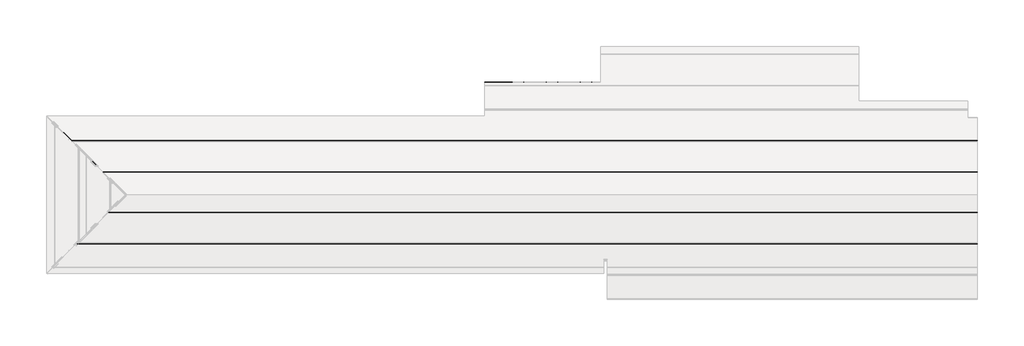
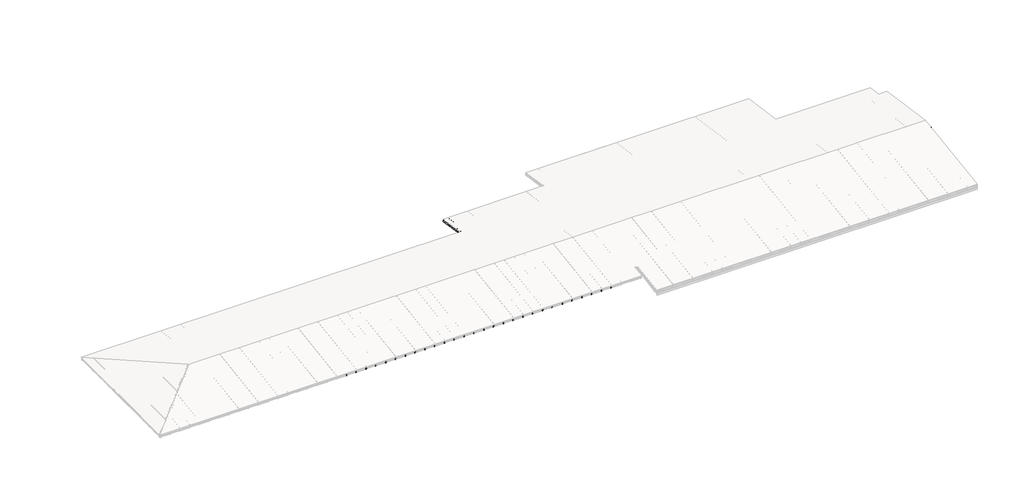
# One storey, part 3 of 5: 59 members, 46 plates.
"""IFC4 building model written with IfcOpenShell, lengths in millimetres."""

from ifc_helpers import new_model, si_unit, origin, place, context, project, spatial, transform, mapped, element, save
from components import rectangular_mullion_08a9c001, rectangular_mullion_d5565008, rectangular_mullion_caibro_4x6_cm_b9eb0bee, rectangular_mullion_caibro_4x6_cm_cc310553, rectangular_mullion_caibro_4x6_cm_ef3f1c05, empty_system_panel_empty_7d408543, empty_system_panel_empty_694f84fb, empty_system_panel_empty_d8998641, empty_system_panel_empty_9b456ec6, empty_system_panel_empty_9f7abfcc, empty_system_panel_empty_cdb567ee, empty_system_panel_empty_49417612, empty_system_panel_empty_f90244ea, empty_system_panel_empty_b74756e7, empty_system_panel_empty_c92cdc9c, empty_system_panel_empty_1d56c370, empty_system_panel_empty_437aea57, empty_system_panel_empty_44f66cc0, empty_system_panel_empty_91b1715d, empty_system_panel_empty_2183487f, empty_system_panel_empty_44032bfa, empty_system_panel_empty_7b34dfa2, empty_system_panel_empty_8c178459, empty_system_panel_empty_1d8738a6, empty_system_panel_empty_8f62b3ce, empty_system_panel_empty_225ca045, empty_system_panel_empty_36dc6f32, empty_system_panel_empty_60bd64a1

model = new_model("IFC4")

# Units and contexts
model_context = context("Model", 3, world=origin())
ifc_project = project(units=[si_unit("LENGTHUNIT", "METRE", prefix="MILLI")], contexts=[model_context])

# Site, building, storey
site = spatial("IfcSite", under=ifc_project)
building = spatial("IfcBuilding", under=site)
storey = spatial("IfcBuildingStorey", under=building, Name="NÍVEL 1", Elevation=3400.0)

# Members
placement = place(None, origin())
rectangular_mullion_shape = rectangular_mullion_08a9c001(model_context)
element("IfcMember", 1, ObjectType="Rectangular Mullion : TERÇA 6x12 cm", at=placement, inside=storey, context=model_context, shape_type="MappedRepresentation", body=[
    mapped(rectangular_mullion_shape, transform((-3392.3834094, -892.0637549, 3089.5787548), x_axis=(0.0, 0.9889363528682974, -0.1483404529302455), y_axis=(0.0, -0.1483404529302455, -0.9889363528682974), z_axis=(-1.0, 0.0, 0.0))),
])
rectangular_mullion_2_shape = rectangular_mullion_d5565008(model_context)
element("IfcMember", 2, ObjectType="Rectangular Mullion : RIPA 4x2 cm", at=placement, inside=storey, context=model_context, shape_type="MappedRepresentation", body=[
    mapped(rectangular_mullion_2_shape, transform((-3992.3834094, -292.0637549, 3063.25), x_axis=(0.0, 0.9889363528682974, -0.1483404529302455), y_axis=(0.0, -0.1483404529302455, -0.9889363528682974), z_axis=(-1.0, 0.0, 0.0))),
])
rectangular_mullion_caibro_4x6_cm_shape = rectangular_mullion_caibro_4x6_cm_b9eb0bee(model_context)
element("IfcMember", 3, ObjectType="Rectangular Mullion : CAIBRO 4x6 cm", at=placement, inside=storey, context=model_context, shape_type="MappedRepresentation", body=[
    mapped(rectangular_mullion_caibro_4x6_cm_shape, transform((-3992.3834094, -1801.8978002, 3289.7251068), x_axis=(-1.0, 0.0, 0.0), y_axis=(0.0, -0.14834045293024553, -0.9889363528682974), z_axis=(0.0, -0.9889363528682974, 0.14834045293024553))),
])
rectangular_mullion_caibro_4x6_cm_2_shape = rectangular_mullion_caibro_4x6_cm_cc310553(model_context)
element("IfcMember", 4, ObjectType="Rectangular Mullion : CAIBRO 4x6 cm", at=placement, inside=storey, context=model_context, shape_type="MappedRepresentation", body=[
    mapped(rectangular_mullion_caibro_4x6_cm_2_shape, transform((-13772.5718868, -5252.0637549, 3807.25), x_axis=(1.0, 0.0, 0.0), y_axis=(0.0, 0.1483404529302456, -0.9889363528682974), z_axis=(0.0, 0.9889363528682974, 0.1483404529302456))),
])
element("IfcMember", 5, ObjectType="Rectangular Mullion : CAIBRO 4x6 cm", at=placement, inside=storey, context=model_context, shape_type="MappedRepresentation", body=[
    mapped(rectangular_mullion_caibro_4x6_cm_2_shape, transform((-13273.3625458, -5252.0637549, 3807.25), x_axis=(1.0, 0.0, 0.0), y_axis=(0.0, 0.1483404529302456, -0.9889363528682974), z_axis=(0.0, 0.9889363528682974, 0.1483404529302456))),
])
element("IfcMember", 6, ObjectType="Rectangular Mullion : CAIBRO 4x6 cm", at=placement, inside=storey, context=model_context, shape_type="MappedRepresentation", body=[
    mapped(rectangular_mullion_caibro_4x6_cm_2_shape, transform((-12774.1532049, -5252.0637549, 3807.25), x_axis=(1.0, 0.0, 0.0), y_axis=(0.0, 0.1483404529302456, -0.9889363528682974), z_axis=(0.0, 0.9889363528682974, 0.1483404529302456))),
])
element("IfcMember", 7, ObjectType="Rectangular Mullion : CAIBRO 4x6 cm", at=placement, inside=storey, context=model_context, shape_type="MappedRepresentation", body=[
    mapped(rectangular_mullion_caibro_4x6_cm_2_shape, transform((-12274.943864, -5252.0637549, 3807.25), x_axis=(1.0, 0.0, 0.0), y_axis=(0.0, 0.14834045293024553, -0.9889363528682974), z_axis=(0.0, 0.9889363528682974, 0.14834045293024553))),
])
element("IfcMember", 8, ObjectType="Rectangular Mullion : CAIBRO 4x6 cm", at=placement, inside=storey, context=model_context, shape_type="MappedRepresentation", body=[
    mapped(rectangular_mullion_caibro_4x6_cm_2_shape, transform((-11775.7345231, -5252.0637549, 3807.25), x_axis=(1.0, 0.0, 0.0), y_axis=(0.0, 0.1483404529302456, -0.9889363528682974), z_axis=(0.0, 0.9889363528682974, 0.1483404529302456))),
])
element("IfcMember", 9, ObjectType="Rectangular Mullion : CAIBRO 4x6 cm", at=placement, inside=storey, context=model_context, shape_type="MappedRepresentation", body=[
    mapped(rectangular_mullion_caibro_4x6_cm_2_shape, transform((-11276.5251822, -5252.0637549, 3807.25), x_axis=(1.0, 0.0, 0.0), y_axis=(0.0, 0.1483404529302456, -0.9889363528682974), z_axis=(0.0, 0.9889363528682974, 0.1483404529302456))),
])
element("IfcMember", 10, ObjectType="Rectangular Mullion : CAIBRO 4x6 cm", at=placement, inside=storey, context=model_context, shape_type="MappedRepresentation", body=[
    mapped(rectangular_mullion_caibro_4x6_cm_2_shape, transform((-10777.3158413, -5252.0637549, 3807.25), x_axis=(1.0, 0.0, 0.0), y_axis=(0.0, 0.1483404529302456, -0.9889363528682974), z_axis=(0.0, 0.9889363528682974, 0.1483404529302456))),
])
element("IfcMember", 11, ObjectType="Rectangular Mullion : CAIBRO 4x6 cm", at=placement, inside=storey, context=model_context, shape_type="MappedRepresentation", body=[
    mapped(rectangular_mullion_caibro_4x6_cm_2_shape, transform((-10278.1065004, -5252.0637549, 3807.25), x_axis=(1.0, 0.0, 0.0), y_axis=(0.0, 0.1483404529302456, -0.9889363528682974), z_axis=(0.0, 0.9889363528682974, 0.1483404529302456))),
])
element("IfcMember", 12, ObjectType="Rectangular Mullion : CAIBRO 4x6 cm", at=placement, inside=storey, context=model_context, shape_type="MappedRepresentation", body=[
    mapped(rectangular_mullion_caibro_4x6_cm_2_shape, transform((-9778.8971595, -5252.0637549, 3807.25), x_axis=(1.0, 0.0, 0.0), y_axis=(0.0, 0.14834045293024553, -0.9889363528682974), z_axis=(0.0, 0.9889363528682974, 0.14834045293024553))),
])
element("IfcMember", 13, ObjectType="Rectangular Mullion : CAIBRO 4x6 cm", at=placement, inside=storey, context=model_context, shape_type="MappedRepresentation", body=[
    mapped(rectangular_mullion_caibro_4x6_cm_2_shape, transform((-9279.6878186, -5252.0637549, 3807.25), x_axis=(1.0, 0.0, 0.0), y_axis=(0.0, 0.14834045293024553, -0.9889363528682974), z_axis=(0.0, 0.9889363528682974, 0.14834045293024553))),
])
element("IfcMember", 14, ObjectType="Rectangular Mullion : CAIBRO 4x6 cm", at=placement, inside=storey, context=model_context, shape_type="MappedRepresentation", body=[
    mapped(rectangular_mullion_caibro_4x6_cm_2_shape, transform((-8780.4784776, -5252.0637549, 3807.25), x_axis=(1.0, 0.0, 0.0), y_axis=(0.0, 0.14834045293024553, -0.9889363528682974), z_axis=(0.0, 0.9889363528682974, 0.14834045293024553))),
])
element("IfcMember", 15, ObjectType="Rectangular Mullion : CAIBRO 4x6 cm", at=placement, inside=storey, context=model_context, shape_type="MappedRepresentation", body=[
    mapped(rectangular_mullion_caibro_4x6_cm_2_shape, transform((-8281.2691367, -5252.0637549, 3807.25), x_axis=(1.0, 0.0, 0.0), y_axis=(0.0, 0.14834045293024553, -0.9889363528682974), z_axis=(0.0, 0.9889363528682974, 0.14834045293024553))),
])
element("IfcMember", 16, ObjectType="Rectangular Mullion : CAIBRO 4x6 cm", at=placement, inside=storey, context=model_context, shape_type="MappedRepresentation", body=[
    mapped(rectangular_mullion_caibro_4x6_cm_2_shape, transform((-7782.0597958, -5252.0637549, 3807.25), x_axis=(1.0, 0.0, 0.0), y_axis=(0.0, 0.1483404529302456, -0.9889363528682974), z_axis=(0.0, 0.9889363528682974, 0.1483404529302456))),
])
element("IfcMember", 17, ObjectType="Rectangular Mullion : CAIBRO 4x6 cm", at=placement, inside=storey, context=model_context, shape_type="MappedRepresentation", body=[
    mapped(rectangular_mullion_caibro_4x6_cm_2_shape, transform((-7282.8504549, -5252.0637549, 3807.25), x_axis=(1.0, 0.0, 0.0), y_axis=(0.0, 0.14834045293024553, -0.9889363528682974), z_axis=(0.0, 0.9889363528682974, 0.14834045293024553))),
])
element("IfcMember", 18, ObjectType="Rectangular Mullion : CAIBRO 4x6 cm", at=placement, inside=storey, context=model_context, shape_type="MappedRepresentation", body=[
    mapped(rectangular_mullion_caibro_4x6_cm_2_shape, transform((-6783.641114, -5252.0637549, 3807.25), x_axis=(1.0, 0.0, 0.0), y_axis=(0.0, 0.14834045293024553, -0.9889363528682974), z_axis=(0.0, 0.9889363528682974, 0.14834045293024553))),
])
element("IfcMember", 19, ObjectType="Rectangular Mullion : CAIBRO 4x6 cm", at=placement, inside=storey, context=model_context, shape_type="MappedRepresentation", body=[
    mapped(rectangular_mullion_caibro_4x6_cm_2_shape, transform((-6284.4317731, -5252.0637549, 3807.25), x_axis=(1.0, 0.0, 0.0), y_axis=(0.0, 0.14834045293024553, -0.9889363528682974), z_axis=(0.0, 0.9889363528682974, 0.14834045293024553))),
])
element("IfcMember", 20, ObjectType="Rectangular Mullion : CAIBRO 4x6 cm", at=placement, inside=storey, context=model_context, shape_type="MappedRepresentation", body=[
    mapped(rectangular_mullion_caibro_4x6_cm_2_shape, transform((-5785.2224322, -5252.0637549, 3807.25), x_axis=(1.0, 0.0, 0.0), y_axis=(0.0, 0.14834045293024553, -0.9889363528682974), z_axis=(0.0, 0.9889363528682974, 0.14834045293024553))),
])
element("IfcMember", 21, ObjectType="Rectangular Mullion : CAIBRO 4x6 cm", at=placement, inside=storey, context=model_context, shape_type="MappedRepresentation", body=[
    mapped(rectangular_mullion_caibro_4x6_cm_2_shape, transform((-5286.0130913, -5252.0637549, 3807.25), x_axis=(1.0, 0.0, 0.0), y_axis=(0.0, 0.14834045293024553, -0.9889363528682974), z_axis=(0.0, 0.9889363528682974, 0.14834045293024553))),
])
element("IfcMember", 22, ObjectType="Rectangular Mullion : CAIBRO 4x6 cm", at=placement, inside=storey, context=model_context, shape_type="MappedRepresentation", body=[
    mapped(rectangular_mullion_caibro_4x6_cm_2_shape, transform((-4786.8037504, -5252.0637549, 3807.25), x_axis=(1.0, 0.0, 0.0), y_axis=(0.0, 0.14834045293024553, -0.9889363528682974), z_axis=(0.0, 0.9889363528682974, 0.14834045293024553))),
])
element("IfcMember", 23, ObjectType="Rectangular Mullion : CAIBRO 4x6 cm", at=placement, inside=storey, context=model_context, shape_type="MappedRepresentation", body=[
    mapped(rectangular_mullion_caibro_4x6_cm_2_shape, transform((-4287.5944094, -5252.0637549, 3807.25), x_axis=(1.0, 0.0, 0.0), y_axis=(0.0, 0.14834045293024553, -0.9889363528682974), z_axis=(0.0, 0.9889363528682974, 0.14834045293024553))),
])
element("IfcMember", 24, ObjectType="Rectangular Mullion : CAIBRO 4x6 cm", at=placement, inside=storey, context=model_context, shape_type="MappedRepresentation", body=[
    mapped(rectangular_mullion_caibro_4x6_cm_2_shape, transform((-4287.5944094, -5252.0637549, 3807.25), x_axis=(-1.0, 0.0, 0.0), y_axis=(0.0, -0.14834045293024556, -0.9889363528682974), z_axis=(0.0, -0.9889363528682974, 0.14834045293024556))),
])
element("IfcMember", 25, ObjectType="Rectangular Mullion : CAIBRO 4x6 cm", at=placement, inside=storey, context=model_context, shape_type="MappedRepresentation", body=[
    mapped(rectangular_mullion_caibro_4x6_cm_2_shape, transform((-4786.8037504, -5252.0637549, 3807.25), x_axis=(-1.0, 0.0, 0.0), y_axis=(0.0, -0.14834045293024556, -0.9889363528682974), z_axis=(0.0, -0.9889363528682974, 0.14834045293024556))),
])
element("IfcMember", 26, ObjectType="Rectangular Mullion : CAIBRO 4x6 cm", at=placement, inside=storey, context=model_context, shape_type="MappedRepresentation", body=[
    mapped(rectangular_mullion_caibro_4x6_cm_2_shape, transform((-5286.0130913, -5252.0637549, 3807.25), x_axis=(-1.0, 0.0, 0.0), y_axis=(0.0, -0.14834045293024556, -0.9889363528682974), z_axis=(0.0, -0.9889363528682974, 0.14834045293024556))),
])
element("IfcMember", 27, ObjectType="Rectangular Mullion : CAIBRO 4x6 cm", at=placement, inside=storey, context=model_context, shape_type="MappedRepresentation", body=[
    mapped(rectangular_mullion_caibro_4x6_cm_2_shape, transform((-5785.2224322, -5252.0637549, 3807.25), x_axis=(-1.0, 0.0, 0.0), y_axis=(0.0, -0.14834045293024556, -0.9889363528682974), z_axis=(0.0, -0.9889363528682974, 0.14834045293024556))),
])
element("IfcMember", 28, ObjectType="Rectangular Mullion : CAIBRO 4x6 cm", at=placement, inside=storey, context=model_context, shape_type="MappedRepresentation", body=[
    mapped(rectangular_mullion_caibro_4x6_cm_2_shape, transform((-6284.4317731, -5252.0637549, 3807.25), x_axis=(-1.0, 0.0, 0.0), y_axis=(0.0, -0.14834045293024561, -0.9889363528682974), z_axis=(0.0, -0.9889363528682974, 0.14834045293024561))),
])
element("IfcMember", 29, ObjectType="Rectangular Mullion : CAIBRO 4x6 cm", at=placement, inside=storey, context=model_context, shape_type="MappedRepresentation", body=[
    mapped(rectangular_mullion_caibro_4x6_cm_2_shape, transform((-6783.641114, -5252.0637549, 3807.25), x_axis=(-1.0, 0.0, 0.0), y_axis=(0.0, -0.14834045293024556, -0.9889363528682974), z_axis=(0.0, -0.9889363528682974, 0.14834045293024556))),
])
element("IfcMember", 30, ObjectType="Rectangular Mullion : CAIBRO 4x6 cm", at=placement, inside=storey, context=model_context, shape_type="MappedRepresentation", body=[
    mapped(rectangular_mullion_caibro_4x6_cm_2_shape, transform((-7282.8504549, -5252.0637549, 3807.25), x_axis=(-1.0, 0.0, 0.0), y_axis=(0.0, -0.14834045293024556, -0.9889363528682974), z_axis=(0.0, -0.9889363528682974, 0.14834045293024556))),
])
element("IfcMember", 31, ObjectType="Rectangular Mullion : CAIBRO 4x6 cm", at=placement, inside=storey, context=model_context, shape_type="MappedRepresentation", body=[
    mapped(rectangular_mullion_caibro_4x6_cm_2_shape, transform((-7782.0597958, -5252.0637549, 3807.25), x_axis=(-1.0, 0.0, 0.0), y_axis=(0.0, -0.14834045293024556, -0.9889363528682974), z_axis=(0.0, -0.9889363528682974, 0.14834045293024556))),
])
element("IfcMember", 32, ObjectType="Rectangular Mullion : CAIBRO 4x6 cm", at=placement, inside=storey, context=model_context, shape_type="MappedRepresentation", body=[
    mapped(rectangular_mullion_caibro_4x6_cm_2_shape, transform((-8281.2691367, -5252.0637549, 3807.25), x_axis=(-1.0, 0.0, 0.0), y_axis=(0.0, -0.14834045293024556, -0.9889363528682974), z_axis=(0.0, -0.9889363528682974, 0.14834045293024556))),
])
element("IfcMember", 33, ObjectType="Rectangular Mullion : CAIBRO 4x6 cm", at=placement, inside=storey, context=model_context, shape_type="MappedRepresentation", body=[
    mapped(rectangular_mullion_caibro_4x6_cm_2_shape, transform((-8780.4784776, -5252.0637549, 3807.25), x_axis=(-1.0, 0.0, 0.0), y_axis=(0.0, -0.14834045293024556, -0.9889363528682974), z_axis=(0.0, -0.9889363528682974, 0.14834045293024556))),
])
element("IfcMember", 34, ObjectType="Rectangular Mullion : CAIBRO 4x6 cm", at=placement, inside=storey, context=model_context, shape_type="MappedRepresentation", body=[
    mapped(rectangular_mullion_caibro_4x6_cm_2_shape, transform((-9279.6878186, -5252.0637549, 3807.25), x_axis=(-1.0, 0.0, 0.0), y_axis=(0.0, -0.14834045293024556, -0.9889363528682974), z_axis=(0.0, -0.9889363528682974, 0.14834045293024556))),
])
element("IfcMember", 35, ObjectType="Rectangular Mullion : CAIBRO 4x6 cm", at=placement, inside=storey, context=model_context, shape_type="MappedRepresentation", body=[
    mapped(rectangular_mullion_caibro_4x6_cm_2_shape, transform((-9778.8971595, -5252.0637549, 3807.25), x_axis=(-1.0, 0.0, 0.0), y_axis=(0.0, -0.14834045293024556, -0.9889363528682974), z_axis=(0.0, -0.9889363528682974, 0.14834045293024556))),
])
element("IfcMember", 36, ObjectType="Rectangular Mullion : CAIBRO 4x6 cm", at=placement, inside=storey, context=model_context, shape_type="MappedRepresentation", body=[
    mapped(rectangular_mullion_caibro_4x6_cm_2_shape, transform((-10278.1065004, -5252.0637549, 3807.25), x_axis=(-1.0, 0.0, 0.0), y_axis=(0.0, -0.14834045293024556, -0.9889363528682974), z_axis=(0.0, -0.9889363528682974, 0.14834045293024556))),
])
element("IfcMember", 37, ObjectType="Rectangular Mullion : CAIBRO 4x6 cm", at=placement, inside=storey, context=model_context, shape_type="MappedRepresentation", body=[
    mapped(rectangular_mullion_caibro_4x6_cm_2_shape, transform((-10777.3158413, -5252.0637549, 3807.25), x_axis=(-1.0, 0.0, 0.0), y_axis=(0.0, -0.14834045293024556, -0.9889363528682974), z_axis=(0.0, -0.9889363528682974, 0.14834045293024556))),
])
element("IfcMember", 38, ObjectType="Rectangular Mullion : CAIBRO 4x6 cm", at=placement, inside=storey, context=model_context, shape_type="MappedRepresentation", body=[
    mapped(rectangular_mullion_caibro_4x6_cm_2_shape, transform((-11276.5251822, -5252.0637549, 3807.25), x_axis=(-1.0, 0.0, 0.0), y_axis=(0.0, -0.14834045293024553, -0.9889363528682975), z_axis=(0.0, -0.9889363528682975, 0.14834045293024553))),
])
element("IfcMember", 39, ObjectType="Rectangular Mullion : CAIBRO 4x6 cm", at=placement, inside=storey, context=model_context, shape_type="MappedRepresentation", body=[
    mapped(rectangular_mullion_caibro_4x6_cm_2_shape, transform((-11775.7345231, -5252.0637549, 3807.25), x_axis=(-1.0, 0.0, 0.0), y_axis=(0.0, -0.14834045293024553, -0.9889363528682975), z_axis=(0.0, -0.9889363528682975, 0.14834045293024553))),
])
element("IfcMember", 40, ObjectType="Rectangular Mullion : CAIBRO 4x6 cm", at=placement, inside=storey, context=model_context, shape_type="MappedRepresentation", body=[
    mapped(rectangular_mullion_caibro_4x6_cm_2_shape, transform((-12274.943864, -5252.0637549, 3807.25), x_axis=(-1.0, 0.0, 0.0), y_axis=(0.0, -0.14834045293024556, -0.9889363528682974), z_axis=(0.0, -0.9889363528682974, 0.14834045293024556))),
])
element("IfcMember", 41, ObjectType="Rectangular Mullion : CAIBRO 4x6 cm", at=placement, inside=storey, context=model_context, shape_type="MappedRepresentation", body=[
    mapped(rectangular_mullion_caibro_4x6_cm_2_shape, transform((-12774.1532049, -5252.0637549, 3807.25), x_axis=(-1.0, 0.0, 0.0), y_axis=(0.0, -0.14834045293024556, -0.9889363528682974), z_axis=(0.0, -0.9889363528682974, 0.14834045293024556))),
])
element("IfcMember", 42, ObjectType="Rectangular Mullion : CAIBRO 4x6 cm", at=placement, inside=storey, context=model_context, shape_type="MappedRepresentation", body=[
    mapped(rectangular_mullion_caibro_4x6_cm_2_shape, transform((-13273.3625458, -5252.0637549, 3807.25), x_axis=(-1.0, 0.0, 0.0), y_axis=(0.0, -0.14834045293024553, -0.9889363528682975), z_axis=(0.0, -0.9889363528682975, 0.14834045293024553))),
])
element("IfcMember", 43, ObjectType="Rectangular Mullion : CAIBRO 4x6 cm", at=placement, inside=storey, context=model_context, shape_type="MappedRepresentation", body=[
    mapped(rectangular_mullion_caibro_4x6_cm_2_shape, transform((-13772.5718868, -5252.0637549, 3807.25), x_axis=(-1.0, 0.0, 0.0), y_axis=(0.0, -0.14834045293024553, -0.9889363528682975), z_axis=(0.0, -0.9889363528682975, 0.14834045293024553))),
])
element("IfcMember", 44, ObjectType="Rectangular Mullion : CAIBRO 4x6 cm", at=placement, inside=storey, context=model_context, shape_type="MappedRepresentation", body=[
    mapped(rectangular_mullion_caibro_4x6_cm_2_shape, transform((-3788.3850685, -5252.0637549, 3807.25), x_axis=(1.0, 0.0, 0.0), y_axis=(0.0, 0.14834045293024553, -0.9889363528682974), z_axis=(0.0, 0.9889363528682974, 0.14834045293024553))),
])
element("IfcMember", 45, ObjectType="Rectangular Mullion : CAIBRO 4x6 cm", at=placement, inside=storey, context=model_context, shape_type="MappedRepresentation", body=[
    mapped(rectangular_mullion_caibro_4x6_cm_2_shape, transform((-3289.1757276, -5252.0637549, 3807.25), x_axis=(1.0, 0.0, 0.0), y_axis=(0.0, 0.14834045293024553, -0.9889363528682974), z_axis=(0.0, 0.9889363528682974, 0.14834045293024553))),
])
element("IfcMember", 46, ObjectType="Rectangular Mullion : CAIBRO 4x6 cm", at=placement, inside=storey, context=model_context, shape_type="MappedRepresentation", body=[
    mapped(rectangular_mullion_caibro_4x6_cm_2_shape, transform((-2789.9663867, -5252.0637549, 3807.25), x_axis=(1.0, 0.0, 0.0), y_axis=(0.0, 0.14834045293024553, -0.9889363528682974), z_axis=(0.0, 0.9889363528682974, 0.14834045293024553))),
])
element("IfcMember", 47, ObjectType="Rectangular Mullion : CAIBRO 4x6 cm", at=placement, inside=storey, context=model_context, shape_type="MappedRepresentation", body=[
    mapped(rectangular_mullion_caibro_4x6_cm_2_shape, transform((-2290.7570458, -5252.0637549, 3807.25), x_axis=(1.0, 0.0, 0.0), y_axis=(0.0, 0.1483404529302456, -0.9889363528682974), z_axis=(0.0, 0.9889363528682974, 0.1483404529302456))),
])
element("IfcMember", 48, ObjectType="Rectangular Mullion : CAIBRO 4x6 cm", at=placement, inside=storey, context=model_context, shape_type="MappedRepresentation", body=[
    mapped(rectangular_mullion_caibro_4x6_cm_2_shape, transform((-1791.5477049, -5252.0637549, 3807.25), x_axis=(1.0, 0.0, 0.0), y_axis=(0.0, 0.1483404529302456, -0.9889363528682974), z_axis=(0.0, 0.9889363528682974, 0.1483404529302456))),
])
element("IfcMember", 49, ObjectType="Rectangular Mullion : CAIBRO 4x6 cm", at=placement, inside=storey, context=model_context, shape_type="MappedRepresentation", body=[
    mapped(rectangular_mullion_caibro_4x6_cm_2_shape, transform((-1292.338364, -5252.0637549, 3807.25), x_axis=(1.0, 0.0, 0.0), y_axis=(0.0, 0.1483404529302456, -0.9889363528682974), z_axis=(0.0, 0.9889363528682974, 0.1483404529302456))),
])
element("IfcMember", 50, ObjectType="Rectangular Mullion : CAIBRO 4x6 cm", at=placement, inside=storey, context=model_context, shape_type="MappedRepresentation", body=[
    mapped(rectangular_mullion_caibro_4x6_cm_2_shape, transform((-793.1290231, -5252.0637549, 3807.25), x_axis=(1.0, 0.0, 0.0), y_axis=(0.0, 0.1483404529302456, -0.9889363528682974), z_axis=(0.0, 0.9889363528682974, 0.1483404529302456))),
])
element("IfcMember", 51, ObjectType="Rectangular Mullion : CAIBRO 4x6 cm", at=placement, inside=storey, context=model_context, shape_type="MappedRepresentation", body=[
    mapped(rectangular_mullion_caibro_4x6_cm_2_shape, transform((-293.9196822, -5252.0637549, 3807.25), x_axis=(1.0, 0.0, 0.0), y_axis=(0.0, 0.1483404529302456, -0.9889363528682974), z_axis=(0.0, 0.9889363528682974, 0.1483404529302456))),
])
rectangular_mullion_caibro_4x6_cm_3_shape = rectangular_mullion_caibro_4x6_cm_ef3f1c05(model_context)
element("IfcMember", 52, ObjectType="Rectangular Mullion : CAIBRO 4x6 cm", at=placement, inside=storey, context=model_context, shape_type="MappedRepresentation", body=[
    mapped(rectangular_mullion_caibro_4x6_cm_3_shape, transform((-293.9196822, -5252.0637549, 3807.25), x_axis=(-1.0, 0.0, 0.0), y_axis=(0.0, -0.1483404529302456, -0.9889363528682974), z_axis=(0.0, -0.9889363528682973, 0.14834045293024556))),
])
element("IfcMember", 53, ObjectType="Rectangular Mullion : CAIBRO 4x6 cm", at=placement, inside=storey, context=model_context, shape_type="MappedRepresentation", body=[
    mapped(rectangular_mullion_caibro_4x6_cm_3_shape, transform((-793.1290231, -5252.0637549, 3807.25), x_axis=(-1.0, 0.0, 0.0), y_axis=(0.0, -0.14834045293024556, -0.9889363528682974), z_axis=(0.0, -0.9889363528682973, 0.14834045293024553))),
])
element("IfcMember", 54, ObjectType="Rectangular Mullion : CAIBRO 4x6 cm", at=placement, inside=storey, context=model_context, shape_type="MappedRepresentation", body=[
    mapped(rectangular_mullion_caibro_4x6_cm_3_shape, transform((-1292.338364, -5252.0637549, 3807.25), x_axis=(-1.0, 0.0, 0.0), y_axis=(0.0, -0.1483404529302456, -0.9889363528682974), z_axis=(0.0, -0.9889363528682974, 0.1483404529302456))),
])
element("IfcMember", 55, ObjectType="Rectangular Mullion : CAIBRO 4x6 cm", at=placement, inside=storey, context=model_context, shape_type="MappedRepresentation", body=[
    mapped(rectangular_mullion_caibro_4x6_cm_3_shape, transform((-1791.5477049, -5252.0637549, 3807.25), x_axis=(-1.0, 0.0, 0.0), y_axis=(0.0, -0.14834045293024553, -0.9889363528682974), z_axis=(0.0, -0.9889363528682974, 0.14834045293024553))),
])
element("IfcMember", 56, ObjectType="Rectangular Mullion : CAIBRO 4x6 cm", at=placement, inside=storey, context=model_context, shape_type="MappedRepresentation", body=[
    mapped(rectangular_mullion_caibro_4x6_cm_3_shape, transform((-2290.7570458, -5252.0637549, 3807.25), x_axis=(-1.0, 0.0, 0.0), y_axis=(0.0, -0.1483404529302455, -0.9889363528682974), z_axis=(0.0, -0.9889363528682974, 0.1483404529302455))),
])
element("IfcMember", 57, ObjectType="Rectangular Mullion : CAIBRO 4x6 cm", at=placement, inside=storey, context=model_context, shape_type="MappedRepresentation", body=[
    mapped(rectangular_mullion_caibro_4x6_cm_3_shape, transform((-2789.9663867, -5252.0637549, 3807.25), x_axis=(-1.0, 0.0, 0.0), y_axis=(0.0, -0.14834045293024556, -0.9889363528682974), z_axis=(0.0, -0.9889363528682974, 0.14834045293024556))),
])
element("IfcMember", 58, ObjectType="Rectangular Mullion : CAIBRO 4x6 cm", at=placement, inside=storey, context=model_context, shape_type="MappedRepresentation", body=[
    mapped(rectangular_mullion_caibro_4x6_cm_3_shape, transform((-3289.1757276, -5252.0637549, 3807.25), x_axis=(-1.0, 0.0, 0.0), y_axis=(0.0, -0.14834045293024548, -0.9889363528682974), z_axis=(0.0, -0.9889363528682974, 0.14834045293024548))),
])
element("IfcMember", 59, ObjectType="Rectangular Mullion : CAIBRO 4x6 cm", at=placement, inside=storey, context=model_context, shape_type="MappedRepresentation", body=[
    mapped(rectangular_mullion_caibro_4x6_cm_3_shape, transform((-3788.3850685, -5252.0637549, 3807.25), x_axis=(-1.0, 0.0, 0.0), y_axis=(0.0, -0.14834045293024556, -0.9889363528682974), z_axis=(0.0, -0.9889363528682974, 0.14834045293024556))),
])

# Plates
empty_system_panel_empty_shape = empty_system_panel_empty_7d408543(model_context)
element("IfcPlate", 60, ObjectType="Empty System Panel : Empty", at=placement, inside=storey, context=model_context, shape_type="MappedRepresentation", body=[
    mapped(empty_system_panel_empty_shape, transform((-4537.1990799, -1801.8978002, 3289.7251068), x_axis=(-1.0, 0.0, 0.0), y_axis=(0.0, -0.1483404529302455, -0.9889363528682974), z_axis=(0.0, -0.9889363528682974, 0.1483404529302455))),
])
element("IfcPlate", 61, ObjectType="Empty System Panel : Empty", at=placement, inside=storey, context=model_context, shape_type="MappedRepresentation", body=[
    mapped(empty_system_panel_empty_shape, transform((-5036.4084208, -1801.8978002, 3289.7251068), x_axis=(-1.0, 0.0, 0.0), y_axis=(0.0, -0.1483404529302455, -0.9889363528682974), z_axis=(0.0, -0.9889363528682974, 0.1483404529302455))),
])
element("IfcPlate", 62, ObjectType="Empty System Panel : Empty", at=placement, inside=storey, context=model_context, shape_type="MappedRepresentation", body=[
    mapped(empty_system_panel_empty_shape, transform((-5535.6177617, -1801.8978002, 3289.7251068), x_axis=(-1.0, 0.0, 0.0), y_axis=(0.0, -0.1483404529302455, -0.9889363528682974), z_axis=(0.0, -0.9889363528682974, 0.1483404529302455))),
])
element("IfcPlate", 63, ObjectType="Empty System Panel : Empty", at=placement, inside=storey, context=model_context, shape_type="MappedRepresentation", body=[
    mapped(empty_system_panel_empty_shape, transform((-6034.8271026, -1801.8978002, 3289.7251068), x_axis=(-1.0, 0.0, 0.0), y_axis=(0.0, -0.1483404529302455, -0.9889363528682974), z_axis=(0.0, -0.9889363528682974, 0.1483404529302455))),
])
element("IfcPlate", 64, ObjectType="Empty System Panel : Empty", at=placement, inside=storey, context=model_context, shape_type="MappedRepresentation", body=[
    mapped(empty_system_panel_empty_shape, transform((-6534.0364435, -1801.8978002, 3289.7251068), x_axis=(-1.0, 0.0, 0.0), y_axis=(0.0, -0.1483404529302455, -0.9889363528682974), z_axis=(0.0, -0.9889363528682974, 0.1483404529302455))),
])
element("IfcPlate", 65, ObjectType="Empty System Panel : Empty", at=placement, inside=storey, context=model_context, shape_type="MappedRepresentation", body=[
    mapped(empty_system_panel_empty_shape, transform((-7033.2457845, -1801.8978002, 3289.7251068), x_axis=(-1.0, 0.0, 0.0), y_axis=(0.0, -0.1483404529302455, -0.9889363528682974), z_axis=(0.0, -0.9889363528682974, 0.1483404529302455))),
])
element("IfcPlate", 66, ObjectType="Empty System Panel : Empty", at=placement, inside=storey, context=model_context, shape_type="MappedRepresentation", body=[
    mapped(empty_system_panel_empty_shape, transform((-7532.4551254, -1801.8978002, 3289.7251068), x_axis=(-1.0, 0.0, 0.0), y_axis=(0.0, -0.1483404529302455, -0.9889363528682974), z_axis=(0.0, -0.9889363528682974, 0.1483404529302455))),
])
element("IfcPlate", 67, ObjectType="Empty System Panel : Empty", at=placement, inside=storey, context=model_context, shape_type="MappedRepresentation", body=[
    mapped(empty_system_panel_empty_shape, transform((-8031.6644663, -1801.8978002, 3289.7251068), x_axis=(-1.0, 0.0, 0.0), y_axis=(0.0, -0.1483404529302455, -0.9889363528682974), z_axis=(0.0, -0.9889363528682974, 0.1483404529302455))),
])
element("IfcPlate", 68, ObjectType="Empty System Panel : Empty", at=placement, inside=storey, context=model_context, shape_type="MappedRepresentation", body=[
    mapped(empty_system_panel_empty_shape, transform((-8530.8738072, -1801.8978002, 3289.7251068), x_axis=(-1.0, 0.0, 0.0), y_axis=(0.0, -0.1483404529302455, -0.9889363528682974), z_axis=(0.0, -0.9889363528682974, 0.1483404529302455))),
])
element("IfcPlate", 69, ObjectType="Empty System Panel : Empty", at=placement, inside=storey, context=model_context, shape_type="MappedRepresentation", body=[
    mapped(empty_system_panel_empty_shape, transform((-9030.0831481, -1801.8978002, 3289.7251068), x_axis=(-1.0, 0.0, 0.0), y_axis=(0.0, -0.1483404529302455, -0.9889363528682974), z_axis=(0.0, -0.9889363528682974, 0.1483404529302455))),
])
element("IfcPlate", 70, ObjectType="Empty System Panel : Empty", at=placement, inside=storey, context=model_context, shape_type="MappedRepresentation", body=[
    mapped(empty_system_panel_empty_shape, transform((-9529.292489, -1801.8978002, 3289.7251068), x_axis=(-1.0, 0.0, 0.0), y_axis=(0.0, -0.1483404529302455, -0.9889363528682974), z_axis=(0.0, -0.9889363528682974, 0.1483404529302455))),
])
element("IfcPlate", 71, ObjectType="Empty System Panel : Empty", at=placement, inside=storey, context=model_context, shape_type="MappedRepresentation", body=[
    mapped(empty_system_panel_empty_shape, transform((-10028.5018299, -1801.8978002, 3289.7251068), x_axis=(-1.0, 0.0, 0.0), y_axis=(0.0, -0.1483404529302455, -0.9889363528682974), z_axis=(0.0, -0.9889363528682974, 0.1483404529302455))),
])
element("IfcPlate", 72, ObjectType="Empty System Panel : Empty", at=placement, inside=storey, context=model_context, shape_type="MappedRepresentation", body=[
    mapped(empty_system_panel_empty_shape, transform((-10527.7111708, -1801.8978002, 3289.7251068), x_axis=(-1.0, 0.0, 0.0), y_axis=(0.0, -0.1483404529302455, -0.9889363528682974), z_axis=(0.0, -0.9889363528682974, 0.1483404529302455))),
])
element("IfcPlate", 73, ObjectType="Empty System Panel : Empty", at=placement, inside=storey, context=model_context, shape_type="MappedRepresentation", body=[
    mapped(empty_system_panel_empty_shape, transform((-11026.9205117, -1801.8978002, 3289.7251068), x_axis=(-1.0, 0.0, 0.0), y_axis=(0.0, -0.1483404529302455, -0.9889363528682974), z_axis=(0.0, -0.9889363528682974, 0.1483404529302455))),
])
element("IfcPlate", 74, ObjectType="Empty System Panel : Empty", at=placement, inside=storey, context=model_context, shape_type="MappedRepresentation", body=[
    mapped(empty_system_panel_empty_shape, transform((-11526.1298527, -1801.8978002, 3289.7251068), x_axis=(-1.0, 0.0, 0.0), y_axis=(0.0, -0.1483404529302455, -0.9889363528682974), z_axis=(0.0, -0.9889363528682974, 0.1483404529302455))),
])
element("IfcPlate", 75, ObjectType="Empty System Panel : Empty", at=placement, inside=storey, context=model_context, shape_type="MappedRepresentation", body=[
    mapped(empty_system_panel_empty_shape, transform((-12025.3391936, -1801.8978002, 3289.7251068), x_axis=(-1.0, 0.0, 0.0), y_axis=(0.0, -0.1483404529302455, -0.9889363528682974), z_axis=(0.0, -0.9889363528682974, 0.1483404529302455))),
])
element("IfcPlate", 76, ObjectType="Empty System Panel : Empty", at=placement, inside=storey, context=model_context, shape_type="MappedRepresentation", body=[
    mapped(empty_system_panel_empty_shape, transform((-12524.5485345, -1801.8978002, 3289.7251068), x_axis=(-1.0, 0.0, 0.0), y_axis=(0.0, -0.1483404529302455, -0.9889363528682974), z_axis=(0.0, -0.9889363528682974, 0.1483404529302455))),
])
element("IfcPlate", 77, ObjectType="Empty System Panel : Empty", at=placement, inside=storey, context=model_context, shape_type="MappedRepresentation", body=[
    mapped(empty_system_panel_empty_shape, transform((-13023.7578754, -1801.8978002, 3289.7251068), x_axis=(-1.0, 0.0, 0.0), y_axis=(0.0, -0.1483404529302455, -0.9889363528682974), z_axis=(0.0, -0.9889363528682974, 0.1483404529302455))),
])
element("IfcPlate", 78, ObjectType="Empty System Panel : Empty", at=placement, inside=storey, context=model_context, shape_type="MappedRepresentation", body=[
    mapped(empty_system_panel_empty_shape, transform((-13522.9672163, -1801.8978002, 3289.7251068), x_axis=(-1.0, 0.0, 0.0), y_axis=(0.0, -0.1483404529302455, -0.9889363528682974), z_axis=(0.0, -0.9889363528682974, 0.1483404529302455))),
])
element("IfcPlate", 79, ObjectType="Empty System Panel : Empty", at=placement, inside=storey, context=model_context, shape_type="MappedRepresentation", body=[
    mapped(empty_system_panel_empty_shape, transform((-14022.1765572, -1801.8978002, 3289.7251068), x_axis=(-1.0, 0.0, 0.0), y_axis=(0.0, -0.1483404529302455, -0.9889363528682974), z_axis=(0.0, -0.9889363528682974, 0.1483404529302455))),
])
element("IfcPlate", 80, ObjectType="Empty System Panel : Empty", at=placement, inside=storey, context=model_context, shape_type="MappedRepresentation", body=[
    mapped(empty_system_panel_empty_shape, transform((-14521.3858981, -1801.8978002, 3289.7251068), x_axis=(-1.0, 0.0, 0.0), y_axis=(0.0, -0.1483404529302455, -0.9889363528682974), z_axis=(0.0, -0.9889363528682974, 0.1483404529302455))),
])
element("IfcPlate", 81, ObjectType="Empty System Panel : Empty", at=placement, inside=storey, context=model_context, shape_type="MappedRepresentation", body=[
    mapped(empty_system_panel_empty_shape, transform((-15020.595239, -1801.8978002, 3289.7251068), x_axis=(-1.0, 0.0, 0.0), y_axis=(0.0, -0.1483404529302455, -0.9889363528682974), z_axis=(0.0, -0.9889363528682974, 0.1483404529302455))),
])
element("IfcPlate", 82, ObjectType="Empty System Panel : Empty", at=placement, inside=storey, context=model_context, shape_type="MappedRepresentation", body=[
    mapped(empty_system_panel_empty_shape, transform((-15519.8045799, -1801.8978002, 3289.7251068), x_axis=(-1.0, 0.0, 0.0), y_axis=(0.0, -0.1483404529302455, -0.9889363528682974), z_axis=(0.0, -0.9889363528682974, 0.1483404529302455))),
])
empty_system_panel_empty_2_shape = empty_system_panel_empty_694f84fb(model_context)
element("IfcPlate", 83, ObjectType="Empty System Panel : Empty", at=placement, inside=storey, context=model_context, shape_type="MappedRepresentation", body=[
    mapped(empty_system_panel_empty_2_shape, transform((-3039.5710572, -292.0637549, 3063.25), x_axis=(-1.0, 0.0, 0.0), y_axis=(0.0, -0.1483404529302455, -0.9889363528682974), z_axis=(0.0, -0.9889363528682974, 0.1483404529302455))),
])
element("IfcPlate", 84, ObjectType="Empty System Panel : Empty", at=placement, inside=storey, context=model_context, shape_type="MappedRepresentation", body=[
    mapped(empty_system_panel_empty_2_shape, transform((-3538.7803981, -292.0637549, 3063.25), x_axis=(-1.0, 0.0, 0.0), y_axis=(0.0, -0.1483404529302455, -0.9889363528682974), z_axis=(0.0, -0.9889363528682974, 0.1483404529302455))),
])
empty_system_panel_empty_3_shape = empty_system_panel_empty_d8998641(model_context)
element("IfcPlate", 85, ObjectType="Empty System Panel : Empty", at=placement, inside=storey, context=model_context, shape_type="MappedRepresentation", body=[
    mapped(empty_system_panel_empty_3_shape, transform((-4037.989739, -292.0637549, 3063.25), x_axis=(-1.0, 0.0, 0.0), y_axis=(0.0, -0.1483404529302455, -0.9889363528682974), z_axis=(0.0, -0.9889363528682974, 0.1483404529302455))),
])
empty_system_panel_empty_4_shape = empty_system_panel_empty_9b456ec6(model_context)
element("IfcPlate", 86, ObjectType="Empty System Panel : Empty", at=placement, inside=storey, context=model_context, shape_type="MappedRepresentation", body=[
    mapped(empty_system_panel_empty_4_shape, transform((-2289.2215118, -7700.7399597, 3439.9485693), x_axis=(1.0, 0.0, 0.0), y_axis=(0.0, 0.1483404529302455, -0.9889363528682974), z_axis=(0.0, 0.9889363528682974, 0.1483404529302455))),
])
empty_system_panel_empty_5_shape = empty_system_panel_empty_9f7abfcc(model_context)
element("IfcPlate", 87, ObjectType="Empty System Panel : Empty", at=placement, inside=storey, context=model_context, shape_type="MappedRepresentation", body=[
    mapped(empty_system_panel_empty_5_shape, transform((-2116.15765, -7354.6122362, 3491.8677278), x_axis=(1.0, 0.0, 0.0), y_axis=(0.0, 0.1483404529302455, -0.9889363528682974), z_axis=(0.0, 0.9889363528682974, 0.1483404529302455))),
])
empty_system_panel_empty_6_shape = empty_system_panel_empty_cdb567ee(model_context)
element("IfcPlate", 88, ObjectType="Empty System Panel : Empty", at=placement, inside=storey, context=model_context, shape_type="MappedRepresentation", body=[
    mapped(empty_system_panel_empty_6_shape, transform((-1943.0937883, -7008.4845127, 3543.7868863), x_axis=(1.0, 0.0, 0.0), y_axis=(0.0, 0.1483404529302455, -0.9889363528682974), z_axis=(0.0, 0.9889363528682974, 0.1483404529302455))),
])
empty_system_panel_empty_7_shape = empty_system_panel_empty_49417612(model_context)
element("IfcPlate", 89, ObjectType="Empty System Panel : Empty", at=placement, inside=storey, context=model_context, shape_type="MappedRepresentation", body=[
    mapped(empty_system_panel_empty_7_shape, transform((-1770.0299265, -6662.3567892, 3595.7060448), x_axis=(1.0, 0.0, 0.0), y_axis=(0.0, 0.1483404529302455, -0.9889363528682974), z_axis=(0.0, 0.9889363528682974, 0.1483404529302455))),
])
empty_system_panel_empty_8_shape = empty_system_panel_empty_f90244ea(model_context)
element("IfcPlate", 90, ObjectType="Empty System Panel : Empty", at=placement, inside=storey, context=model_context, shape_type="MappedRepresentation", body=[
    mapped(empty_system_panel_empty_8_shape, transform((-1596.9660648, -6316.2290657, 3647.6252034), x_axis=(1.0, 0.0, 0.0), y_axis=(0.0, 0.1483404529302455, -0.9889363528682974), z_axis=(0.0, 0.9889363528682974, 0.1483404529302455))),
])
empty_system_panel_empty_9_shape = empty_system_panel_empty_b74756e7(model_context)
element("IfcPlate", 91, ObjectType="Empty System Panel : Empty", at=placement, inside=storey, context=model_context, shape_type="MappedRepresentation", body=[
    mapped(empty_system_panel_empty_9_shape, transform((-1423.902203, -5970.1013422, 3699.5443619), x_axis=(1.0, 0.0, 0.0), y_axis=(0.0, 0.1483404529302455, -0.9889363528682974), z_axis=(0.0, 0.9889363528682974, 0.1483404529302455))),
])
empty_system_panel_empty_10_shape = empty_system_panel_empty_c92cdc9c(model_context)
element("IfcPlate", 92, ObjectType="Empty System Panel : Empty", at=placement, inside=storey, context=model_context, shape_type="MappedRepresentation", body=[
    mapped(empty_system_panel_empty_10_shape, transform((-1250.8383413, -5623.9736187, 3751.4635204), x_axis=(1.0, 0.0, 0.0), y_axis=(0.0, 0.1483404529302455, -0.9889363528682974), z_axis=(0.0, 0.9889363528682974, 0.1483404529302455))),
])
empty_system_panel_empty_11_shape = empty_system_panel_empty_1d56c370(model_context)
element("IfcPlate", 93, ObjectType="Empty System Panel : Empty", at=placement, inside=storey, context=model_context, shape_type="MappedRepresentation", body=[
    mapped(empty_system_panel_empty_11_shape, transform((-2755.0299265, -1871.7707205, 3300.2060448), x_axis=(-1.0, 0.0, 0.0), y_axis=(0.0, -0.1483404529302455, -0.9889363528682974), z_axis=(0.0, -0.9889363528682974, 0.1483404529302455))),
])
empty_system_panel_empty_12_shape = empty_system_panel_empty_437aea57(model_context)
element("IfcPlate", 94, ObjectType="Empty System Panel : Empty", at=placement, inside=storey, context=model_context, shape_type="MappedRepresentation", body=[
    mapped(empty_system_panel_empty_12_shape, transform((-2581.9660648, -2217.898444, 3352.1252034), x_axis=(-1.0, 0.0, 0.0), y_axis=(0.0, -0.1483404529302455, -0.9889363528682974), z_axis=(0.0, -0.9889363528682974, 0.1483404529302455))),
])
empty_system_panel_empty_13_shape = empty_system_panel_empty_44f66cc0(model_context)
element("IfcPlate", 95, ObjectType="Empty System Panel : Empty", at=placement, inside=storey, context=model_context, shape_type="MappedRepresentation", body=[
    mapped(empty_system_panel_empty_13_shape, transform((-2408.902203, -2564.0261675, 3404.0443619), x_axis=(-1.0, 0.0, 0.0), y_axis=(0.0, -0.1483404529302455, -0.9889363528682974), z_axis=(0.0, -0.9889363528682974, 0.1483404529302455))),
])
empty_system_panel_empty_14_shape = empty_system_panel_empty_91b1715d(model_context)
element("IfcPlate", 96, ObjectType="Empty System Panel : Empty", at=placement, inside=storey, context=model_context, shape_type="MappedRepresentation", body=[
    mapped(empty_system_panel_empty_14_shape, transform((-2235.8383413, -2910.153891, 3455.9635204), x_axis=(-1.0, 0.0, 0.0), y_axis=(0.0, -0.1483404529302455, -0.9889363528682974), z_axis=(0.0, -0.9889363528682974, 0.1483404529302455))),
])
empty_system_panel_empty_15_shape = empty_system_panel_empty_2183487f(model_context)
element("IfcPlate", 97, ObjectType="Empty System Panel : Empty", at=placement, inside=storey, context=model_context, shape_type="MappedRepresentation", body=[
    mapped(empty_system_panel_empty_15_shape, transform((-2062.7744795, -3256.2816146, 3507.8826789), x_axis=(-1.0, 0.0, 0.0), y_axis=(0.0, -0.1483404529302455, -0.9889363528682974), z_axis=(0.0, -0.9889363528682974, 0.1483404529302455))),
])
empty_system_panel_empty_16_shape = empty_system_panel_empty_44032bfa(model_context)
element("IfcPlate", 98, ObjectType="Empty System Panel : Empty", at=placement, inside=storey, context=model_context, shape_type="MappedRepresentation", body=[
    mapped(empty_system_panel_empty_16_shape, transform((-1889.7106178, -3602.4093381, 3559.8018375), x_axis=(-1.0, 0.0, 0.0), y_axis=(0.0, -0.1483404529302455, -0.9889363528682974), z_axis=(0.0, -0.9889363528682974, 0.1483404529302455))),
])
empty_system_panel_empty_17_shape = empty_system_panel_empty_7b34dfa2(model_context)
element("IfcPlate", 99, ObjectType="Empty System Panel : Empty", at=placement, inside=storey, context=model_context, shape_type="MappedRepresentation", body=[
    mapped(empty_system_panel_empty_17_shape, transform((-1716.646756, -3948.5370616, 3611.720996), x_axis=(-1.0, 0.0, 0.0), y_axis=(0.0, -0.1483404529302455, -0.9889363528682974), z_axis=(0.0, -0.9889363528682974, 0.1483404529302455))),
])
empty_system_panel_empty_18_shape = empty_system_panel_empty_8c178459(model_context)
element("IfcPlate", 100, ObjectType="Empty System Panel : Empty", at=placement, inside=storey, context=model_context, shape_type="MappedRepresentation", body=[
    mapped(empty_system_panel_empty_18_shape, transform((-1543.5828943, -4294.6647851, 3663.6401545), x_axis=(-1.0, 0.0, 0.0), y_axis=(0.0, -0.1483404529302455, -0.9889363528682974), z_axis=(0.0, -0.9889363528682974, 0.1483404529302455))),
])
empty_system_panel_empty_19_shape = empty_system_panel_empty_1d8738a6(model_context)
element("IfcPlate", 101, ObjectType="Empty System Panel : Empty", at=placement, inside=storey, context=model_context, shape_type="MappedRepresentation", body=[
    mapped(empty_system_panel_empty_19_shape, transform((-1370.5190325, -4640.7925086, 3715.5593131), x_axis=(-1.0, 0.0, 0.0), y_axis=(0.0, -0.1483404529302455, -0.9889363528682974), z_axis=(0.0, -0.9889363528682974, 0.1483404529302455))),
])
empty_system_panel_empty_20_shape = empty_system_panel_empty_8f62b3ce(model_context)
element("IfcPlate", 102, ObjectType="Empty System Panel : Empty", at=placement, inside=storey, context=model_context, shape_type="MappedRepresentation", body=[
    mapped(empty_system_panel_empty_20_shape, transform((-1197.4551708, -4986.9202321, 3767.4784716), x_axis=(-1.0, 0.0, 0.0), y_axis=(0.0, -0.1483404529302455, -0.9889363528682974), z_axis=(0.0, -0.9889363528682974, 0.1483404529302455))),
])
empty_system_panel_empty_21_shape = empty_system_panel_empty_225ca045(model_context)
element("IfcPlate", 103, ObjectType="Empty System Panel : Empty", at=placement, inside=storey, context=model_context, shape_type="MappedRepresentation", body=[
    mapped(empty_system_panel_empty_21_shape, transform((-1799.271349, -6740.8396341, 3523.2623729), x_axis=(1.0, 0.0, 0.0), y_axis=(0.0, 0.1483404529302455, -0.9889363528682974), z_axis=(0.0, 0.9889363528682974, 0.1483404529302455))),
])
empty_system_panel_empty_22_shape = empty_system_panel_empty_36dc6f32(model_context)
element("IfcPlate", 104, ObjectType="Empty System Panel : Empty", at=placement, inside=storey, context=model_context, shape_type="MappedRepresentation", body=[
    mapped(empty_system_panel_empty_22_shape, transform((-2430.6302055, -1377.8453298, 3162.445991), x_axis=(-1.0, 0.0, 0.0), y_axis=(0.0, -0.1483404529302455, -0.9889363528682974), z_axis=(0.0, -0.9889363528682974, 0.1483404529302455))),
])
empty_system_panel_empty_23_shape = empty_system_panel_empty_60bd64a1(model_context)
element("IfcPlate", 105, ObjectType="Empty System Panel : Empty", at=placement, inside=storey, context=model_context, shape_type="MappedRepresentation", body=[
    mapped(empty_system_panel_empty_23_shape, transform((-2030.9380156, -3319.9545423, 3453.7623729), x_axis=(-1.0, 0.0, 0.0), y_axis=(0.0, -0.1483404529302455, -0.9889363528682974), z_axis=(0.0, -0.9889363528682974, 0.1483404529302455))),
])

save(model, "model.ifc")
